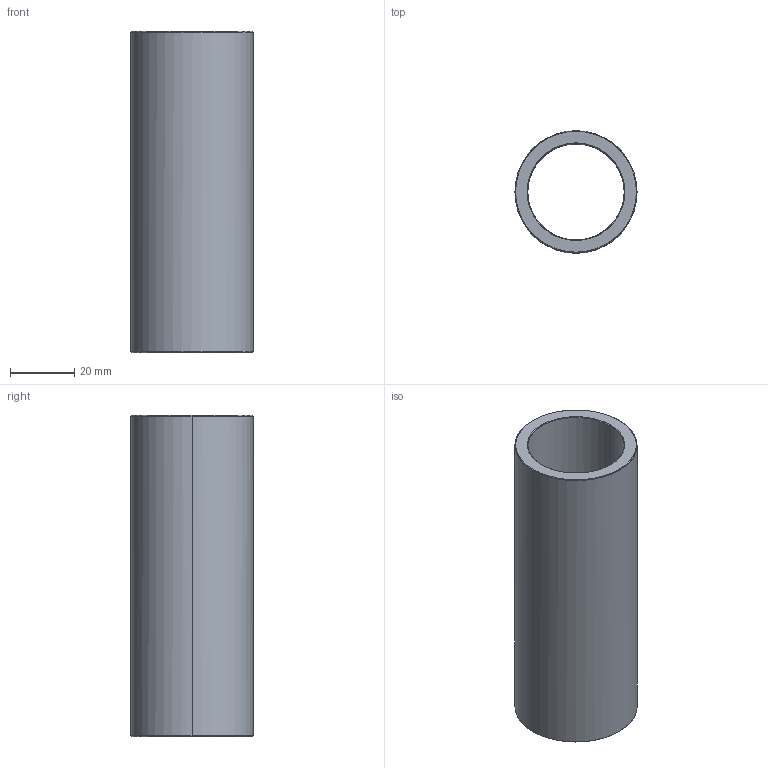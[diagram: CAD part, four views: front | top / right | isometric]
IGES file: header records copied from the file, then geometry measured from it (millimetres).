
Start section: Write IGES format                                    datakit 2008 (c)
Global section: file name: Unknown; native system: DATAKIT Converter; preprocessor: Unknown; author: Unknown; organization: Unknown; date: 950613.180003; units: millimetre
Bounding box: 38 x 38 x 100 mm (x, y, z)
Surface area: 22167.3 mm2 (no closed solid volume)
Topology: 0 solids, 0 shells, 14 faces, 56 edges, 56 vertices
Faces by surface type: revolution 12, bspline 2
